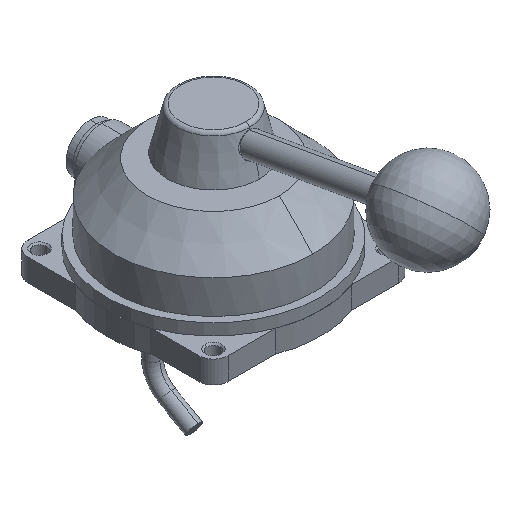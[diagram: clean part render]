
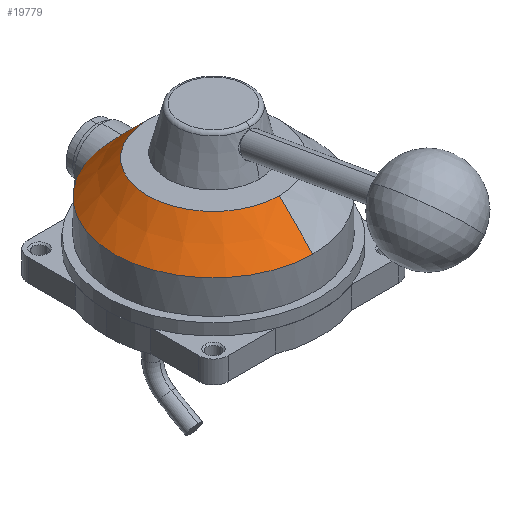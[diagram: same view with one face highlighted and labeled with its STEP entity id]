
A CAD part, isometric view. The second image highlights one B-rep face of the part: STEP entity #19779.
In plain terms, the highlighted conical face has half-angle 45 degrees and reference radius 41.25 mm.
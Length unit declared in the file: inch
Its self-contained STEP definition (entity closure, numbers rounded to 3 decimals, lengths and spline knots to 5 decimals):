
#510 = CARTESIAN_POINT ( 'NONE',  ( -0.28766, 1.57995, 0.76815 ) ) ;
#582 = CARTESIAN_POINT ( 'NONE',  ( -0.23354, 1.54882, 0.8077 ) ) ;
#1245 = CARTESIAN_POINT ( 'NONE',  ( 0., -1.074, 1.3 ) ) ;
#1367 = B_SPLINE_CURVE_WITH_KNOTS ( 'NONE', 3,
 ( #2280, #510, #11336, #582, #13089, #2360, #14887, #4114, #16634, #5944, #18392, #7771, #20146, #9615 ),
 .UNSPECIFIED., .F., .F.,
 ( 4, 2, 2, 2, 2, 2, 4 ),
 ( -0.00901, -0.00676, -0.00563, -0.0045, -0.00225, -0.00113, 0. ),
 .UNSPECIFIED. ) ;
#2191 = CARTESIAN_POINT ( 'NONE',  ( 0., 1.074, 1.3 ) ) ;
#2280 = CARTESIAN_POINT ( 'NONE',  ( -0.30619, 1.59487, 0.75 ) ) ;
#2289 = CARTESIAN_POINT ( 'NONE',  ( 0., 0., 0.75 ) ) ;
#2360 = CARTESIAN_POINT ( 'NONE',  ( -0.1971, 1.53309, 0.82834 ) ) ;
#2849 = DIRECTION ( 'NONE',  ( 0., 0.707, -0.707 ) ) ;
#2965 = ORIENTED_EDGE ( 'NONE', *, *, #6391, .F. ) ;
#3879 = LINE ( 'NONE', #17142, #8729 ) ;
#4037 = DIRECTION ( 'NONE',  ( 0., 1., 0. ) ) ;
#4114 = CARTESIAN_POINT ( 'NONE',  ( -0.1451, 1.51607, 0.85121 ) ) ;
#4291 = VERTEX_POINT ( 'NONE', #2191 ) ;
#4414 = AXIS2_PLACEMENT_3D ( 'NONE', #20690, #10135, #22401 ) ;
#4740 = ORIENTED_EDGE ( 'NONE', *, *, #14976, .T. ) ;
#4821 = CARTESIAN_POINT ( 'NONE',  ( 0., -1.624, 0.75 ) ) ;
#5944 = CARTESIAN_POINT ( 'NONE',  ( -0.07432, 1.50334, 0.86889 ) ) ;
#6044 = EDGE_LOOP ( 'NONE', ( #2965, #14211, #4740, #11500, #7138 ) ) ;
#6391 = EDGE_CURVE ( 'NONE', #20614, #17641, #10369, .T. ) ;
#6553 = CIRCLE ( 'NONE', #4414, 1.074 ) ;
#6570 = CONICAL_SURFACE ( 'NONE', #8585, 1.624, 0.785 ) ;
#6883 = AXIS2_PLACEMENT_3D ( 'NONE', #2289, #14817, #4037 ) ;
#7138 = ORIENTED_EDGE ( 'NONE', *, *, #17876, .F. ) ;
#7771 = CARTESIAN_POINT ( 'NONE',  ( -0.02991, 1.49954, 0.87423 ) ) ;
#8585 = AXIS2_PLACEMENT_3D ( 'NONE', #11323, #9522, #20131 ) ;
#8729 = VECTOR ( 'NONE', #2849, 39.37008 ) ;
#9522 = DIRECTION ( 'NONE',  ( 0., 0., -1. ) ) ;
#9615 = CARTESIAN_POINT ( 'NONE',  ( 0., 1.499, 0.875 ) ) ;
#10135 = DIRECTION ( 'NONE',  ( 0., 0., -1. ) ) ;
#10195 = EDGE_CURVE ( 'NONE', #20614, #4291, #6553, .T. ) ;
#10369 = LINE ( 'NONE', #13133, #19177 ) ;
#10818 = EDGE_CURVE ( 'NONE', #14778, #22007, #1367, .T. ) ;
#11323 = CARTESIAN_POINT ( 'NONE',  ( 0., 0., 0.75 ) ) ;
#11336 = CARTESIAN_POINT ( 'NONE',  ( -0.26726, 1.56656, 0.78494 ) ) ;
#11500 = ORIENTED_EDGE ( 'NONE', *, *, #10818, .F. ) ;
#12516 = FACE_OUTER_BOUND ( 'NONE', #6044, .T. ) ;
#13089 = CARTESIAN_POINT ( 'NONE',  ( -0.22177, 1.5433, 0.81489 ) ) ;
#13133 = CARTESIAN_POINT ( 'NONE',  ( 0., -1.624, 0.75 ) ) ;
#14211 = ORIENTED_EDGE ( 'NONE', *, *, #10195, .T. ) ;
#14778 = VERTEX_POINT ( 'NONE', #15931 ) ;
#14817 = DIRECTION ( 'NONE',  ( 0., 0., -1. ) ) ;
#14887 = CARTESIAN_POINT ( 'NONE',  ( -0.18431, 1.52844, 0.83454 ) ) ;
#14941 = DIRECTION ( 'NONE',  ( 0., -0.707, -0.707 ) ) ;
#14976 = EDGE_CURVE ( 'NONE', #4291, #22007, #3879, .T. ) ;
#15931 = CARTESIAN_POINT ( 'NONE',  ( -0.30619, 1.59487, 0.75 ) ) ;
#16634 = CARTESIAN_POINT ( 'NONE',  ( -0.11765, 1.50978, 0.85992 ) ) ;
#17142 = CARTESIAN_POINT ( 'NONE',  ( 0., 1.624, 0.75 ) ) ;
#17641 = VERTEX_POINT ( 'NONE', #4821 ) ;
#17876 = EDGE_CURVE ( 'NONE', #17641, #14778, #21171, .T. ) ;
#18392 = CARTESIAN_POINT ( 'NONE',  ( -0.05953, 1.50171, 0.87119 ) ) ;
#18744 = CARTESIAN_POINT ( 'NONE',  ( 0., 1.499, 0.875 ) ) ;
#19177 = VECTOR ( 'NONE', #14941, 39.37008 ) ;
#19779 = ADVANCED_FACE ( 'NONE', ( #12516 ), #6570, .T. ) ;
#20131 = DIRECTION ( 'NONE',  ( 0., 1., 0. ) ) ;
#20146 = CARTESIAN_POINT ( 'NONE',  ( -0.01501, 1.499, 0.875 ) ) ;
#20614 = VERTEX_POINT ( 'NONE', #1245 ) ;
#20690 = CARTESIAN_POINT ( 'NONE',  ( 0., 0., 1.3 ) ) ;
#21171 = CIRCLE ( 'NONE', #6883, 1.624 ) ;
#22007 = VERTEX_POINT ( 'NONE', #18744 ) ;
#22401 = DIRECTION ( 'NONE',  ( 0., 1., 0. ) ) ;
